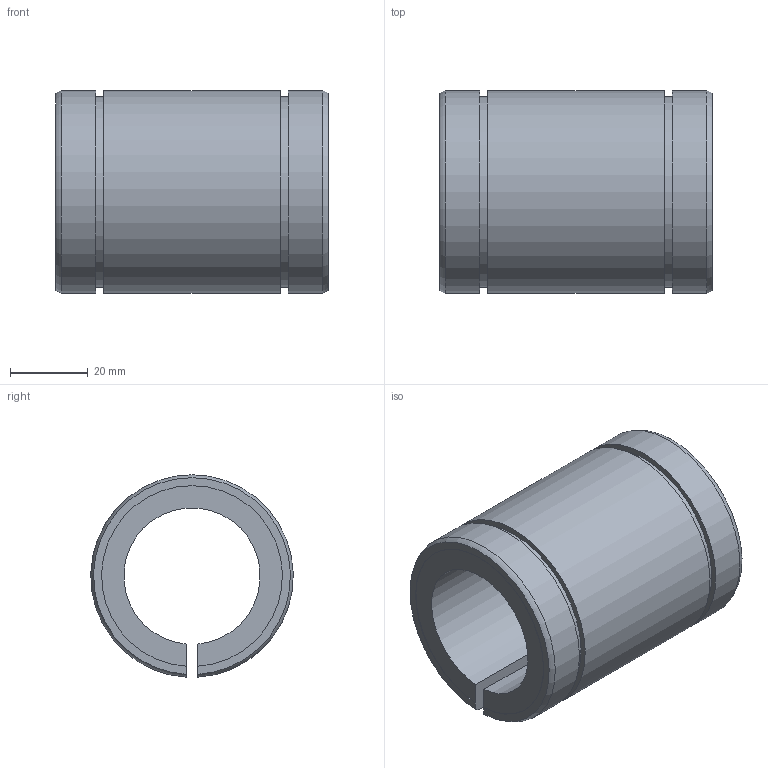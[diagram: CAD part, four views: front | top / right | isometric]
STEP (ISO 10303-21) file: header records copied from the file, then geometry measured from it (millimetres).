
FILE_DESCRIPTION((''),'2;1');
FILE_NAME('D:\製品 (図面)\カタログ用3D\リニアベアリング関連\STEP形式\L-ADJ\L35-ADJ.stp','2010-06-02T17:37:52',('Tsuchiya'),(''),'Autodesk Inventor 10','Autodesk Inventor 10','');
FILE_SCHEMA(('AUTOMOTIVE_DESIGN { 1 0 10303 214 1 1 1 1 }'));
Length unit declared in the file: millimetre
Products named in the file (1): L35-ADJ
Bounding box: 70 x 51.98 x 51.96 mm (x, y, z)
Volume: 78254.2 mm3; surface area: 22878.5 mm2
Topology: 1 solids, 1 shells, 20 faces, 54 edges, 36 vertices
Faces by surface type: plane 10, cylinder 8, torus 2
Entity records: 687 total; most frequent: CARTESIAN_POINT 147, DIRECTION 110, ORIENTED_EDGE 108, EDGE_CURVE 54, AXIS2_PLACEMENT_3D 39, VERTEX_POINT 36, VECTOR 32, LINE 32
